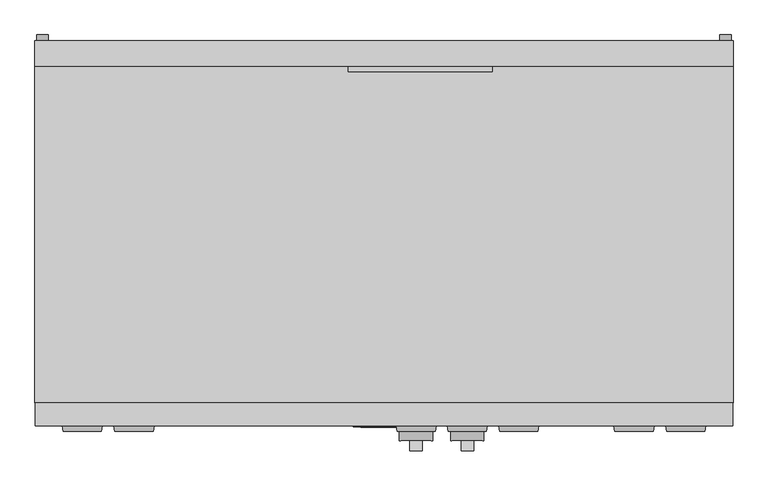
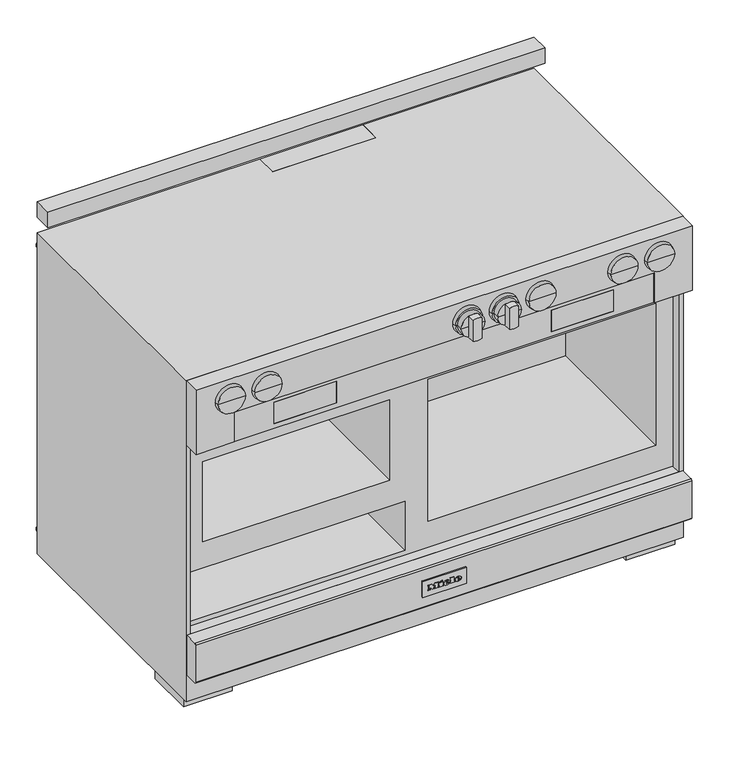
"""IFC4 building model written with IfcOpenShell, lengths in millimetres: proxy geometry, 11791700_USA_HR1956-3G_EDST-CLST : 25195681_USA_11791700_HR1956-3G_EDST-CLST."""

from ifc_helpers import new_model, si_unit, point, frame, frame_2d, origin, origin_with_axes, place, context, project, spatial, polyline, circle_curve, ellipse_curve, trimmed, segment, composite_curve, outline, extrude, faceted_brep, source, transform, mapped, element, save
from ifc_brep_helpers import plane_surface, cylinder_surface, revolved_surface, extruded_surface, advanced_brep


def specialty_equipment_65e86ba7(model_context):
    return source(origin(), model_context, "Body", "SolidModel", [
        advanced_brep(
        [(145.5, -683.0, 813.0), (174.5, -683.0, 813.0), (116.5, -683.0, 813.0), (116.5, -699.0, 813.0), (174.5, -699.0, 813.0), (145.5, -699.0, 813.0)],
        [
            (0, 1),
            (1, 2, circle_curve(frame((145.5, -683.0, 813.0), z_axis=(0.0, 1.0, 0.0), x_axis=(1.0, 0.0, 0.0)), 29.0)),
            (2, 0),
            (2, 1, circle_curve(frame((145.5, -683.0, 813.0), z_axis=(0.0, 1.0, 0.0), x_axis=(1.0, 0.0, 0.0)), 29.0)),
            (3, 4, circle_curve(frame((145.5, -699.0, 813.0), z_axis=(0.0, -1.0, 0.0), x_axis=(1.0, 0.0, 0.0)), 29.0)),
            (4, 5),
            (5, 3),
            (4, 3, circle_curve(frame((145.5, -699.0, 813.0), z_axis=(0.0, -1.0, 0.0), x_axis=(1.0, 0.0, 0.0)), 29.0)),
            (1, 4),
            (3, 2),
        ],
        [
            plane_surface(frame((145.5, -683.0, 813.0), z_axis=(0.0, 1.0, 0.0), x_axis=(1.0, 0.0, 0.0))),
            plane_surface(frame((145.5, -699.0, 813.0), z_axis=(0.0, -1.0, 0.0), x_axis=(1.0, 0.0, 0.0))),
            cylinder_surface(frame((145.5, 751.3738435, 813.0), z_axis=(0.0, 1.0, 0.0), x_axis=(1.0, 0.0, 0.0)), 29.0),
        ],
        [
            (0, [[1, 2, 3]]),
            (0, [[-3, 4, -1]]),
            (1, [[5, 6, 7]]),
            (1, [[8, -7, -6]]),
            (2, [[-2, 9, -5, 10]]),
            (2, [[-4, -10, -8, -9]]),
        ],
    ),
        advanced_brep(
        [(56.0, -683.0, 813.0), (85.0, -683.0, 813.0), (27.0, -683.0, 813.0), (27.0, -699.0, 813.0), (85.0, -699.0, 813.0), (56.0, -699.0, 813.0)],
        [
            (0, 1),
            (1, 2, circle_curve(frame((56.0, -683.0, 813.0), z_axis=(0.0, 1.0, 0.0), x_axis=(1.0, 0.0, 0.0)), 29.0)),
            (2, 0),
            (2, 1, circle_curve(frame((56.0, -683.0, 813.0), z_axis=(0.0, 1.0, 0.0), x_axis=(1.0, 0.0, 0.0)), 29.0)),
            (3, 4, circle_curve(frame((56.0, -699.0, 813.0), z_axis=(0.0, -1.0, 0.0), x_axis=(1.0, 0.0, 0.0)), 29.0)),
            (4, 5),
            (5, 3),
            (4, 3, circle_curve(frame((56.0, -699.0, 813.0), z_axis=(0.0, -1.0, 0.0), x_axis=(1.0, 0.0, 0.0)), 29.0)),
            (1, 4),
            (3, 2),
        ],
        [
            plane_surface(frame((56.0, -683.0, 813.0), z_axis=(0.0, 1.0, 0.0), x_axis=(1.0, 0.0, 0.0))),
            plane_surface(frame((56.0, -699.0, 813.0), z_axis=(0.0, -1.0, 0.0), x_axis=(1.0, 0.0, 0.0))),
            cylinder_surface(frame((56.0, 751.3738435, 813.0), z_axis=(0.0, 1.0, 0.0), x_axis=(1.0, 0.0, 0.0)), 29.0),
        ],
        [
            (0, [[1, 2, 3]]),
            (0, [[-3, 4, -1]]),
            (1, [[5, 6, 7]]),
            (1, [[8, -7, -6]]),
            (2, [[-2, 9, -5, 10]]),
            (2, [[-4, -10, -8, -9]]),
        ],
    ),
        extrude(outline(composite_curve([segment(polyline([(839.8328157, 45.0), (786.1671843, 45.0)]), True, "CONTINUOUS"), segment(trimmed(circle_curve(frame_2d((813.0, 56.0)), 29.0), [point((786.1671843, 45.0))], [point((786.1671843, 67.0))], False, "CARTESIAN"), True, "CONTINUOUS"), segment(polyline([(786.1671843, 67.0), (839.8328157, 67.0)]), True, "CONTINUOUS"), segment(trimmed(circle_curve(frame_2d((813.0, 56.0)), 29.0), [point((839.8328157, 67.0))], [point((839.8328157, 45.0))], False, "CARTESIAN"), True, "CONTINUOUS")], self_intersect=False)), frame((0.0, -717.0, 0.0), z_axis=(0.0, 1.0, 0.0), x_axis=(0.0, 0.0, 1.0)), (0.0, 0.0, 1.0), 18.0),
        extrude(outline(composite_curve([segment(polyline([(839.8328157, 134.5), (786.1671843, 134.5)]), True, "CONTINUOUS"), segment(trimmed(circle_curve(frame_2d((813.0, 145.5)), 29.0), [point((786.1671843, 134.5))], [point((786.1671843, 156.5))], False, "CARTESIAN"), True, "CONTINUOUS"), segment(polyline([(786.1671843, 156.5), (839.8328157, 156.5)]), True, "CONTINUOUS"), segment(trimmed(circle_curve(frame_2d((813.0, 145.5)), 29.0), [point((839.8328157, 156.5))], [point((839.8328157, 134.5))], False, "CARTESIAN"), True, "CONTINUOUS")], self_intersect=False)), frame((0.0, -717.0, 0.0), z_axis=(0.0, 1.0, 0.0), x_axis=(0.0, 0.0, 1.0)), (0.0, 0.0, 1.0), 18.0),
        advanced_brep(
        [(493.2632698, -683.0, 813.0), (559.7367302, -683.0, 813.0), (526.5, -683.0, 813.0), (491.5, -673.0, 813.0), (561.5, -673.0, 813.0), (526.5, -673.0, 813.0)],
        [
            (0, 1, circle_curve(frame((526.5, -683.0, 813.0), z_axis=(0.0, -1.0, 0.0), x_axis=(1.0, 0.0, 0.0)), 33.2367302)),
            (1, 2),
            (2, 0),
            (1, 0, circle_curve(frame((526.5, -683.0, 813.0), z_axis=(0.0, -1.0, 0.0), x_axis=(1.0, 0.0, 0.0)), 33.2367302)),
            (3, 4, circle_curve(frame((526.5, -673.0, 813.0), z_axis=(0.0, -1.0, 0.0), x_axis=(1.0, 0.0, 0.0)), 35.0)),
            (4, 1),
            (0, 3),
            (4, 3, circle_curve(frame((526.5, -673.0, 813.0), z_axis=(0.0, -1.0, 0.0), x_axis=(1.0, 0.0, 0.0)), 35.0)),
            (5, 4),
            (3, 5),
        ],
        [
            plane_surface(frame((526.5, -683.0, 813.0), z_axis=(0.0, -1.0, 0.0), x_axis=(1.0, 0.0, 0.0))),
            revolved_surface(polyline([(559.7367302, -683.0, 813.0), (561.5, -673.0, 813.0)]), (526.5, 751.3738435, 813.0), (0.0, 1.0, 0.0)),
            plane_surface(frame((526.5, -673.0, 813.0), z_axis=(0.0, 1.0, 0.0), x_axis=(1.0, 0.0, 0.0))),
        ],
        [
            (0, [[1, 2, 3]]),
            (0, [[4, -3, -2]]),
            (1, [[5, 6, -1, 7]]),
            (1, [[8, -7, -4, -6]]),
            (2, [[9, -5, 10]]),
            (2, [[-10, -8, -9]]),
        ],
    ),
        advanced_brep(
        [(403.2632698, -683.0, 813.0), (469.7367302, -683.0, 813.0), (436.5, -683.0, 813.0), (401.5, -673.0, 813.0), (471.5, -673.0, 813.0), (436.5, -673.0, 813.0)],
        [
            (0, 1, circle_curve(frame((436.5, -683.0, 813.0), z_axis=(0.0, -1.0, 0.0), x_axis=(1.0, 0.0, 0.0)), 33.2367302)),
            (1, 2),
            (2, 0),
            (1, 0, circle_curve(frame((436.5, -683.0, 813.0), z_axis=(0.0, -1.0, 0.0), x_axis=(1.0, 0.0, 0.0)), 33.2367302)),
            (3, 4, circle_curve(frame((436.5, -673.0, 813.0), z_axis=(0.0, -1.0, 0.0), x_axis=(1.0, 0.0, 0.0)), 35.0)),
            (4, 1),
            (0, 3),
            (4, 3, circle_curve(frame((436.5, -673.0, 813.0), z_axis=(0.0, -1.0, 0.0), x_axis=(1.0, 0.0, 0.0)), 35.0)),
            (5, 4),
            (3, 5),
        ],
        [
            plane_surface(frame((436.5, -683.0, 813.0), z_axis=(0.0, -1.0, 0.0), x_axis=(1.0, 0.0, 0.0))),
            revolved_surface(polyline([(469.7367302, -683.0, 813.0), (471.5, -673.0, 813.0)]), (436.5, 751.3738435, 813.0), (0.0, 1.0, 0.0)),
            plane_surface(frame((436.5, -673.0, 813.0), z_axis=(0.0, 1.0, 0.0), x_axis=(1.0, 0.0, 0.0))),
        ],
        [
            (0, [[1, 2, 3]]),
            (0, [[4, -3, -2]]),
            (1, [[5, 6, -1, 7]]),
            (1, [[8, -7, -4, -6]]),
            (2, [[9, -5, 10]]),
            (2, [[-10, -8, -9]]),
        ],
    ),
        advanced_brep(
        [(202.2632698, -683.0, 813.0), (268.7367302, -683.0, 813.0), (235.5, -683.0, 813.0), (200.5, -673.0, 813.0), (270.5, -673.0, 813.0), (235.5, -673.0, 813.0)],
        [
            (0, 1, circle_curve(frame((235.5, -683.0, 813.0), z_axis=(0.0, -1.0, 0.0), x_axis=(1.0, 0.0, 0.0)), 33.2367302)),
            (1, 2),
            (2, 0),
            (1, 0, circle_curve(frame((235.5, -683.0, 813.0), z_axis=(0.0, -1.0, 0.0), x_axis=(1.0, 0.0, 0.0)), 33.2367302)),
            (3, 4, circle_curve(frame((235.5, -673.0, 813.0), z_axis=(0.0, -1.0, 0.0), x_axis=(1.0, 0.0, 0.0)), 35.0)),
            (4, 1),
            (0, 3),
            (4, 3, circle_curve(frame((235.5, -673.0, 813.0), z_axis=(0.0, -1.0, 0.0), x_axis=(1.0, 0.0, 0.0)), 35.0)),
            (5, 4),
            (3, 5),
        ],
        [
            plane_surface(frame((235.5, -683.0, 813.0), z_axis=(0.0, -1.0, 0.0), x_axis=(1.0, 0.0, 0.0))),
            revolved_surface(polyline([(268.7367302, -683.0, 813.0), (270.5, -673.0, 813.0)]), (235.5, 751.3738435, 813.0), (0.0, 1.0, 0.0)),
            plane_surface(frame((235.5, -673.0, 813.0), z_axis=(0.0, 1.0, 0.0), x_axis=(1.0, 0.0, 0.0))),
        ],
        [
            (0, [[1, 2, 3]]),
            (0, [[4, -3, -2]]),
            (1, [[5, 6, -1, 7]]),
            (1, [[8, -7, -4, -6]]),
            (2, [[9, -5, 10]]),
            (2, [[-10, -8, -9]]),
        ],
    ),
        advanced_brep(
        [(-469.7367302, -683.0, 813.0), (-403.2632698, -683.0, 813.0), (-436.5, -683.0, 813.0), (-471.5, -673.0, 813.0), (-401.5, -673.0, 813.0), (-436.5, -673.0, 813.0)],
        [
            (0, 1, circle_curve(frame((-436.5, -683.0, 813.0), z_axis=(0.0, -1.0, 0.0), x_axis=(1.0, 0.0, 0.0)), 33.2367302)),
            (1, 2),
            (2, 0),
            (1, 0, circle_curve(frame((-436.5, -683.0, 813.0), z_axis=(0.0, -1.0, 0.0), x_axis=(1.0, 0.0, 0.0)), 33.2367302)),
            (3, 4, circle_curve(frame((-436.5, -673.0, 813.0), z_axis=(0.0, -1.0, 0.0), x_axis=(1.0, 0.0, 0.0)), 35.0)),
            (4, 1),
            (0, 3),
            (4, 3, circle_curve(frame((-436.5, -673.0, 813.0), z_axis=(0.0, -1.0, 0.0), x_axis=(1.0, 0.0, 0.0)), 35.0)),
            (5, 4),
            (3, 5),
        ],
        [
            plane_surface(frame((-436.5, -683.0, 813.0), z_axis=(0.0, -1.0, 0.0), x_axis=(1.0, 0.0, 0.0))),
            revolved_surface(polyline([(-403.2632698, -683.0, 813.0), (-401.5, -673.0, 813.0)]), (-436.5, 751.3738435, 813.0), (0.0, 1.0, 0.0)),
            plane_surface(frame((-436.5, -673.0, 813.0), z_axis=(0.0, 1.0, 0.0), x_axis=(1.0, 0.0, 0.0))),
        ],
        [
            (0, [[1, 2, 3]]),
            (0, [[4, -3, -2]]),
            (1, [[5, 6, -1, 7]]),
            (1, [[8, -7, -4, -6]]),
            (2, [[9, -5, 10]]),
            (2, [[-10, -8, -9]]),
        ],
    ),
        advanced_brep(
        [(-559.7367302, -683.0, 813.0), (-493.2632698, -683.0, 813.0), (-526.5, -683.0, 813.0), (-561.5, -673.0, 813.0), (-491.5, -673.0, 813.0), (-526.5, -673.0, 813.0)],
        [
            (0, 1, circle_curve(frame((-526.5, -683.0, 813.0), z_axis=(0.0, -1.0, 0.0), x_axis=(1.0, 0.0, 0.0)), 33.2367302)),
            (1, 2),
            (2, 0),
            (1, 0, circle_curve(frame((-526.5, -683.0, 813.0), z_axis=(0.0, -1.0, 0.0), x_axis=(1.0, 0.0, 0.0)), 33.2367302)),
            (3, 4, circle_curve(frame((-526.5, -673.0, 813.0), z_axis=(0.0, -1.0, 0.0), x_axis=(1.0, 0.0, 0.0)), 35.0)),
            (4, 1),
            (0, 3),
            (4, 3, circle_curve(frame((-526.5, -673.0, 813.0), z_axis=(0.0, -1.0, 0.0), x_axis=(1.0, 0.0, 0.0)), 35.0)),
            (5, 4),
            (3, 5),
        ],
        [
            plane_surface(frame((-526.5, -683.0, 813.0), z_axis=(0.0, -1.0, 0.0), x_axis=(1.0, 0.0, 0.0))),
            revolved_surface(polyline([(-493.2632698, -683.0, 813.0), (-491.5, -673.0, 813.0)]), (-526.5, 751.3738435, 813.0), (0.0, 1.0, 0.0)),
            plane_surface(frame((-526.5, -673.0, 813.0), z_axis=(0.0, 1.0, 0.0), x_axis=(1.0, 0.0, 0.0))),
        ],
        [
            (0, [[1, 2, 3]]),
            (0, [[4, -3, -2]]),
            (1, [[5, 6, -1, 7]]),
            (1, [[8, -7, -4, -6]]),
            (2, [[9, -5, 10]]),
            (2, [[-10, -8, -9]]),
        ],
    ),
        advanced_brep(
        [(112.2632698, -683.0, 813.0), (178.7367302, -683.0, 813.0), (145.5, -683.0, 813.0), (110.5, -673.0, 813.0), (180.5, -673.0, 813.0), (145.5, -673.0, 813.0)],
        [
            (0, 1, circle_curve(frame((145.5, -683.0, 813.0), z_axis=(0.0, -1.0, 0.0), x_axis=(1.0, 0.0, 0.0)), 33.2367302)),
            (1, 2),
            (2, 0),
            (1, 0, circle_curve(frame((145.5, -683.0, 813.0), z_axis=(0.0, -1.0, 0.0), x_axis=(1.0, 0.0, 0.0)), 33.2367302)),
            (3, 4, circle_curve(frame((145.5, -673.0, 813.0), z_axis=(0.0, -1.0, 0.0), x_axis=(1.0, 0.0, 0.0)), 35.0)),
            (4, 1),
            (0, 3),
            (4, 3, circle_curve(frame((145.5, -673.0, 813.0), z_axis=(0.0, -1.0, 0.0), x_axis=(1.0, 0.0, 0.0)), 35.0)),
            (5, 4),
            (3, 5),
        ],
        [
            plane_surface(frame((145.5, -683.0, 813.0), z_axis=(0.0, -1.0, 0.0), x_axis=(1.0, 0.0, 0.0))),
            revolved_surface(polyline([(178.7367302, -683.0, 813.0), (180.5, -673.0, 813.0)]), (145.5, 751.3738435, 813.0), (0.0, 1.0, 0.0)),
            plane_surface(frame((145.5, -673.0, 813.0), z_axis=(0.0, 1.0, 0.0), x_axis=(1.0, 0.0, 0.0))),
        ],
        [
            (0, [[1, 2, 3]]),
            (0, [[4, -3, -2]]),
            (1, [[5, 6, -1, 7]]),
            (1, [[8, -7, -4, -6]]),
            (2, [[9, -5, 10]]),
            (2, [[-10, -8, -9]]),
        ],
    ),
        advanced_brep(
        [(22.7632698, -683.0, 813.0), (89.2367302, -683.0, 813.0), (56.0, -683.0, 813.0), (21.0, -673.0, 813.0), (91.0, -673.0, 813.0), (56.0, -673.0, 813.0)],
        [
            (0, 1, circle_curve(frame((56.0, -683.0, 813.0), z_axis=(0.0, -1.0, 0.0), x_axis=(1.0, 0.0, 0.0)), 33.2367302)),
            (1, 2),
            (2, 0),
            (1, 0, circle_curve(frame((56.0, -683.0, 813.0), z_axis=(0.0, -1.0, 0.0), x_axis=(1.0, 0.0, 0.0)), 33.2367302)),
            (3, 4, circle_curve(frame((56.0, -673.0, 813.0), z_axis=(0.0, -1.0, 0.0), x_axis=(1.0, 0.0, 0.0)), 35.0)),
            (4, 1),
            (0, 3),
            (4, 3, circle_curve(frame((56.0, -673.0, 813.0), z_axis=(0.0, -1.0, 0.0), x_axis=(1.0, 0.0, 0.0)), 35.0)),
            (5, 4),
            (3, 5),
        ],
        [
            plane_surface(frame((56.0, -683.0, 813.0), z_axis=(0.0, -1.0, 0.0), x_axis=(1.0, 0.0, 0.0))),
            revolved_surface(polyline([(89.2367302, -683.0, 813.0), (91.0, -673.0, 813.0)]), (56.0, 751.3738435, 813.0), (0.0, 1.0, 0.0)),
            plane_surface(frame((56.0, -673.0, 813.0), z_axis=(0.0, 1.0, 0.0), x_axis=(1.0, 0.0, 0.0))),
        ],
        [
            (0, [[1, 2, 3]]),
            (0, [[4, -3, -2]]),
            (1, [[5, 6, -1, 7]]),
            (1, [[8, -7, -4, -6]]),
            (2, [[9, -5, 10]]),
            (2, [[-10, -8, -9]]),
        ],
    ),
        faceted_brep([(608.5, -673.0, 862.0), (-608.5, -673.0, 862.0), (-608.5, -673.0, 695.0), (-515.5, -673.0, 695.0), (-515.5, -673.0, 772.0), (515.5, -673.0, 772.0), (515.5, -673.0, 695.0), (608.5, -673.0, 695.0), (608.5, -633.0, 862.0), (608.5, -633.0, 695.0), (-608.5, -633.0, 695.0), (-608.5, -633.0, 862.0), (515.5, -666.7, 695.0), (-515.5, -666.7, 695.0), (515.5, -666.7, 772.0), (-515.5, -666.7, 772.0)], [[[0, 1, 2, 3, 4, 5, 6, 7]], [[8, 9, 10, 11]], [[0, 7, 9, 8]], [[10, 9, 7, 6, 12, 13, 3, 2]], [[2, 1, 11, 10]], [[1, 0, 8, 11]], [[14, 15, 13, 12]], [[14, 12, 6, 5]], [[13, 15, 4, 3]], [[15, 14, 5, 4]]]),
        extrude(outline(polyline([(772.0, 515.5), (772.0, -515.5), (695.0, -515.5), (695.0, 515.5), (772.0, 515.5)]), holes=[polyline([(763.0, -263.5), (707.0, -263.5), (707.0, -416.5), (763.0, -416.5), (763.0, -263.5)]), polyline([(763.0, 416.5), (707.0, 416.5), (707.0, 263.5), (763.0, 263.5), (763.0, 416.5)])]), frame((0.0, -671.7, 0.0), z_axis=(0.0, 1.0, 0.0), x_axis=(0.0, 0.0, 1.0)), (0.0, 0.0, 1.0), 5.0),
        extrude(outline(polyline([(-263.5, -671.7), (-416.5, -671.7), (-416.5, -670.7), (-263.5, -670.7), (-263.5, -671.7)])), frame((0.0, 0.0, 707.0), z_axis=(0.0, 0.0, 1.0), x_axis=(1.0, 0.0, 0.0)), (0.0, 0.0, 1.0), 56.0),
        extrude(outline(polyline([(416.5, -671.7), (263.5, -671.7), (263.5, -670.7), (416.5, -670.7), (416.5, -671.7)])), frame((0.0, 0.0, 707.0), z_axis=(0.0, 0.0, 1.0), x_axis=(1.0, 0.0, 0.0)), (0.0, 0.0, 1.0), 56.0),
        extrude(outline(polyline([(-482.5, -489.0), (-482.5, -609.0), (-602.5, -609.0), (-602.5, -489.0), (-482.5, -489.0)])), origin_with_axes(), (0.0, 0.0, 1.0), 30.0),
        extrude(outline(polyline([(602.5, -489.0), (602.5, -609.0), (482.5, -609.0), (482.5, -489.0), (602.5, -489.0)])), origin_with_axes(), (0.0, 0.0, 1.0), 30.0),
        extrude(outline(composite_curve([segment(trimmed(circle_curve(frame_2d((-152.0, 40.0)), 40.0), [point((-113.2701665, 30.0))], [point((-190.7298335, 30.0))], False, "CARTESIAN"), True, "CONTINUOUS"), segment(polyline([(-190.7298335, 30.0), (-113.2701665, 30.0)]), True, "CONTINUOUS")], self_intersect=False)), frame((434.5, 0.0, 0.0), z_axis=(1.0, 0.0, 0.0), x_axis=(0.0, 1.0, 0.0)), (0.0, 0.0, 1.0), 28.0),
        faceted_brep([(-609.5, 0.0, 862.0), (-609.5, -633.0, 862.0), (609.5, -633.0, 862.0), (609.5, 0.0, 862.0), (189.5, 0.0, 862.0), (189.5, -55.0, 862.0), (-63.5, -55.0, 862.0), (-63.5, 0.0, 862.0), (609.5, 0.0, 30.0), (609.5, -633.0, 30.0), (-609.5, -633.0, 30.0), (-609.5, 0.0, 30.0), (-598.5, 0.0, 30.0), (-598.5, -77.0, 30.0), (598.5, -77.0, 30.0), (598.5, 0.0, 30.0), (598.5, 0.0, 105.0), (189.5, 0.0, 105.0), (-63.5, 0.0, 105.0), (-459.5, 0.0, 105.0), (-459.5, 0.0, 784.0), (-547.5, 0.0, 784.0), (-547.5, 0.0, 105.0), (-598.5, 0.0, 105.0), (598.5, -633.0, 695.0), (598.5, -633.0, 203.0), (-598.5, -633.0, 203.0), (-598.5, -633.0, 695.0), (598.5, -608.0, 695.0), (-598.5, -608.0, 695.0), (-598.5, -608.0, 203.0), (598.5, -608.0, 203.0), (557.5, -608.0, 639.0), (557.5, -608.0, 271.0), (-2.5, -608.0, 271.0), (-2.5, -608.0, 639.0), (-58.5, -608.0, 342.0), (-58.5, -608.0, 215.0), (-592.5, -608.0, 215.0), (-592.5, -608.0, 342.0), (-96.5, -608.0, 618.0), (-96.5, -608.0, 410.0), (-554.5, -608.0, 410.0), (-554.5, -608.0, 618.0), (557.5, -224.0, 639.0), (-2.5, -224.0, 639.0), (-2.5, -224.0, 271.0), (557.5, -224.0, 271.0), (-96.5, -235.0, 618.0), (-554.5, -235.0, 618.0), (-554.5, -235.0, 410.0), (-96.5, -235.0, 410.0), (-58.5, -95.0, 342.0), (-592.5, -95.0, 342.0), (-592.5, -95.0, 215.0), (-58.5, -95.0, 215.0), (-598.5, -77.0, 105.0), (598.5, -77.0, 105.0), (-547.5, -55.0, 105.0), (-459.5, -55.0, 105.0), (-63.5, -55.0, 105.0), (189.5, -55.0, 105.0), (-547.5, -55.0, 784.0), (-459.5, -55.0, 784.0)], [[[0, 1, 2, 3, 4, 5, 6, 7]], [[8, 9, 10, 11, 12, 13, 14, 15]], [[3, 8, 15, 16, 17, 4]], [[11, 0, 7, 18, 19, 20, 21, 22, 23, 12]], [[1, 0, 11, 10]], [[2, 1, 10, 9], [24, 25, 26, 27]], [[3, 2, 9, 8]], [[28, 29, 30, 31], [32, 33, 34, 35], [36, 37, 38, 39], [40, 41, 42, 43]], [[28, 31, 25, 24]], [[31, 30, 26, 25]], [[30, 29, 27, 26]], [[29, 28, 24, 27]], [[44, 45, 46, 47]], [[44, 47, 33, 32]], [[47, 46, 34, 33]], [[46, 45, 35, 34]], [[45, 44, 32, 35]], [[48, 49, 50, 51]], [[51, 50, 42, 41]], [[50, 49, 43, 42]], [[49, 48, 40, 43]], [[52, 53, 54, 55]], [[52, 55, 37, 36]], [[55, 54, 38, 37]], [[54, 53, 39, 38]], [[53, 52, 36, 39]], [[56, 57, 14, 13]], [[57, 56, 23, 22, 58, 59, 19, 18, 60, 61, 17, 16]], [[57, 16, 15, 14]], [[23, 56, 13, 12]], [[62, 63, 59, 58]], [[5, 61, 60, 6]], [[6, 60, 18, 7]], [[63, 62, 21, 20]], [[63, 20, 19, 59]], [[21, 62, 58, 22]], [[61, 5, 4, 17]], [[48, 51, 41, 40]]]),
        extrude(outline(composite_curve([segment(trimmed(circle_curve(frame_2d((761.0, -19.5)), 7.5), [point((761.0, -12.0))], [point((761.0, -27.0))], False, "CARTESIAN"), True, "CONTINUOUS"), segment(trimmed(circle_curve(frame_2d((761.0, -19.5)), 7.5), [point((761.0, -27.0))], [point((761.0, -12.0))], False, "CARTESIAN"), True, "CONTINUOUS")], self_intersect=False)), frame((0.0, -55.0, 0.0), z_axis=(0.0, 1.0, 0.0), x_axis=(0.0, 0.0, 1.0)), (0.0, 0.0, 1.0), 30.0),
        extrude(outline(polyline([(756.0, -8.9829639), (766.0509015, -8.9829639), (766.0509015, -10.2409127), (761.1386151, -10.2409127), (766.0475587, -15.3904554), (766.0475587, -17.1455728), (761.9164775, -12.8179994), (756.0, -17.3019347), (756.0, -15.7701694), (761.0664133, -11.9304743), (759.4465471, -10.2392234), (756.0, -10.2392234), (756.0, -8.9829639)])), frame((0.0, -25.0, 0.0), z_axis=(0.0, 1.0, 0.0), x_axis=(0.0, 0.0, 1.0)), (0.0, 0.0, 1.0), 1.0),
        extrude(outline(polyline([(755.9900117, -20.0376107), (766.0405487, -17.3032463), (766.0405487, -18.6010309), (757.3952189, -20.6941056), (766.0411296, -23.1946617), (766.0411296, -25.0615338), (757.4117226, -27.5845612), (766.0419182, -29.665026), (766.0419182, -30.9626989), (755.9984871, -28.2244126), (755.9984871, -26.8735976), (764.8308623, -24.1286268), (755.9900117, -21.5716905), (755.9900117, -20.0376107)])), frame((0.0, -25.0, 0.0), z_axis=(0.0, 1.0, 0.0), x_axis=(0.0, 0.0, 1.0)), (0.0, 0.0, 1.0), 1.0),
        extrude(outline(composite_curve([segment(trimmed(circle_curve(frame_2d((-514.5, -32.0)), 7.5), [point((-522.0, -32.0))], [point((-507.0, -32.0))], False, "CARTESIAN"), True, "CONTINUOUS"), segment(trimmed(circle_curve(frame_2d((-514.5, -32.0)), 7.5), [point((-507.0, -32.0))], [point((-522.0, -32.0))], False, "CARTESIAN"), True, "CONTINUOUS")], self_intersect=False)), frame((0.0, 0.0, 754.0), z_axis=(0.0, 0.0, 1.0), x_axis=(1.0, 0.0, 0.0)), (0.0, 0.0, 1.0), 30.0),
        extrude(outline(composite_curve([segment(trimmed(circle_curve(frame_2d((417.5, -39.0)), 7.5), [point((417.5, -46.5))], [point((417.5, -31.5))], False, "CARTESIAN"), True, "CONTINUOUS"), segment(trimmed(circle_curve(frame_2d((417.5, -39.0)), 7.5), [point((417.5, -31.5))], [point((417.5, -46.5))], False, "CARTESIAN"), True, "CONTINUOUS")], self_intersect=False)), frame((0.0, 0.0, 75.0), z_axis=(0.0, 0.0, 1.0), x_axis=(1.0, 0.0, 0.0)), (0.0, 0.0, 1.0), 30.0),
        extrude(outline(polyline([(424.9261097, -43.2846028), (417.6553153, -43.2846028), (417.6553153, -42.0259878), (423.6324687, -42.0259878), (423.6324687, -39.0398896), (417.9699511, -39.0398896), (417.9699511, -37.7868997), (423.6324687, -37.7868997), (423.6324687, -34.484481), (417.5234692, -34.484481), (417.5234692, -33.223126), (424.9261097, -33.223126), (424.9261097, -43.2846028)])), frame((0.0, 0.0, 74.0), z_axis=(0.0, 0.0, 1.0), x_axis=(1.0, 0.0, 0.0)), (0.0, 0.0, 1.0), 1.0),
        extrude(outline(polyline([(415.5939455, -43.2781045), (409.4083542, -43.2781045), (409.4083542, -42.0259878), (414.4083542, -42.0259878), (414.4083542, -33.223126), (415.5939455, -33.223126), (415.5939455, -43.2781045)])), frame((0.0, 0.0, 74.0), z_axis=(0.0, 0.0, 1.0), x_axis=(1.0, 0.0, 0.0)), (0.0, 0.0, 1.0), 1.0),
        extrude(outline(composite_curve([segment(polyline([(-633.0, 203.0), (-633.0, 100.0), (-668.0, 100.0)]), True, "CONTINUOUS"), segment(trimmed(circle_curve(frame_2d((-668.0, 103.0)), 3.0), [point((-668.0, 100.0))], [point((-671.0, 103.0))], False, "CARTESIAN"), True, "CONTINUOUS"), segment(polyline([(-671.0, 103.0), (-671.0, 200.0)]), True, "CONTINUOUS"), segment(trimmed(circle_curve(frame_2d((-668.0, 200.0)), 3.0), [point((-671.0, 200.0))], [point((-668.0, 203.0))], False, "CARTESIAN"), True, "CONTINUOUS"), segment(polyline([(-668.0, 203.0), (-633.0, 203.0)]), True, "CONTINUOUS")], self_intersect=False)), frame((-608.5, 0.0, 0.0), z_axis=(1.0, 0.0, 0.0), x_axis=(0.0, 1.0, 0.0)), (0.0, 0.0, 1.0), 1217.0),
        extrude(outline(composite_curve([segment(polyline([(-511.5941465, -31.8216074), (-507.5193946, -31.8216074), (-507.5193946, -33.0727848), (-510.3300756, -33.0727848), (-510.3300756, -34.8953779), (-509.0547934, -35.5734575), (-507.3554891, -35.8730907)]), True, "CONTINUOUS"), segment(trimmed(circle_curve(frame_2d((-507.2763582, -32.1835188)), 3.6904203), [point((-507.3554891, -35.8730907))], [point((-503.5917956, -31.975672))], True, "CARTESIAN"), True, "CONTINUOUS"), segment(trimmed(circle_curve(frame_2d((-507.7742118, -32.2116028)), 4.1890654), [point((-503.5917956, -31.975672))], [point((-507.3924604, -28.0399683))], True, "CARTESIAN"), True, "CONTINUOUS"), segment(trimmed(circle_curve(frame_2d((-507.6434541, -30.7827322)), 2.7542243), [point((-507.3924604, -28.0399683))], [point((-509.7311401, -28.9862582))], True, "CARTESIAN"), True, "CONTINUOUS"), segment(polyline([(-509.7311401, -28.9862582), (-510.2913432, -30.1348449), (-511.4545959, -29.808521), (-510.7222817, -28.1459412)]), True, "CONTINUOUS"), segment(trimmed(circle_curve(frame_2d((-507.5056573, -31.3038983)), 4.5077007), [point((-510.7222817, -28.1459412))], [point((-507.3478593, -26.7989604))], False, "CARTESIAN"), True, "CONTINUOUS"), segment(trimmed(circle_curve(frame_2d((-507.5297107, -32.0029797)), 5.2071956), [point((-507.3478593, -26.7989604))], [point((-502.3225151, -32.0029797))], False, "CARTESIAN"), True, "CONTINUOUS"), segment(trimmed(circle_curve(frame_2d((-507.5187023, -31.9634409)), 5.1963376), [point((-502.3225151, -32.0029797))], [point((-507.5187023, -37.1597785))], False, "CARTESIAN"), True, "CONTINUOUS"), segment(polyline([(-507.5187023, -37.1597785), (-509.5821579, -36.7823822), (-511.5941465, -35.5734575), (-511.5941465, -31.8216074)]), True, "CONTINUOUS")], self_intersect=False)), frame((0.0, 0.0, 753.0), z_axis=(0.0, 0.0, 1.0), x_axis=(1.0, 0.0, 0.0)), (0.0, 0.0, 1.0), 1.0),
        extrude(outline(composite_curve([segment(polyline([(-521.9581842, -34.6489066), (-520.702206, -34.8031213), (-521.6593436, -36.5606642)]), True, "CONTINUOUS"), segment(trimmed(circle_curve(frame_2d((-523.8057471, -33.6354063)), 3.6282478), [point((-521.6593436, -36.5606642))], [point((-525.3962663, -36.8964538))], False, "CARTESIAN"), True, "CONTINUOUS"), segment(trimmed(circle_curve(frame_2d((-524.2731504, -34.593725)), 2.5620205), [point((-525.3962663, -36.8964538))], [point((-526.82893, -34.7724425))], False, "CARTESIAN"), True, "CONTINUOUS"), segment(trimmed(circle_curve(frame_2d((-525.117737, -34.6527843)), 1.7153715), [point((-526.82893, -34.7724425))], [point((-525.647816, -33.021369))], False, "CARTESIAN"), True, "CONTINUOUS"), segment(polyline([(-525.647816, -33.021369), (-523.8069947, -32.4232499), (-522.487673, -30.9770867)]), True, "CONTINUOUS"), segment(trimmed(circle_curve(frame_2d((-523.6408399, -33.351197)), 2.6393548), [point((-522.487673, -30.9770867))], [point((-524.7940069, -30.9770867))], True, "CARTESIAN"), True, "CONTINUOUS"), segment(polyline([(-524.7940069, -30.9770867), (-525.2553884, -31.6611129), (-526.5084996, -31.5072502), (-526.0756304, -30.3795875)]), True, "CONTINUOUS"), segment(trimmed(circle_curve(frame_2d((-523.4527143, -33.6576461)), 4.1982564), [point((-526.0756304, -30.3795875))], [point((-523.5505395, -29.4605295))], False, "CARTESIAN"), True, "CONTINUOUS"), segment(trimmed(circle_curve(frame_2d((-523.4805679, -32.4626064)), 3.0028922), [point((-523.5505395, -29.4605295))], [point((-521.0718203, -30.6694816))], False, "CARTESIAN"), True, "CONTINUOUS"), segment(trimmed(circle_curve(frame_2d((-522.9380028, -31.5301363)), 2.0550823), [point((-521.0718203, -30.6694816))], [point((-521.9341096, -33.323335))], False, "CARTESIAN"), True, "CONTINUOUS"), segment(polyline([(-521.9341096, -33.323335), (-523.8494535, -33.9828408), (-525.5597255, -34.9076387), (-525.1768706, -35.6156702)]), True, "CONTINUOUS"), segment(trimmed(circle_curve(frame_2d((-523.8695779, -32.6018954)), 3.2850956), [point((-525.1768706, -35.6156702))], [point((-522.5622852, -35.6156702))], True, "CARTESIAN"), True, "CONTINUOUS"), segment(polyline([(-522.5622852, -35.6156702), (-521.9581842, -34.6489066)]), True, "CONTINUOUS")], self_intersect=False)), frame((0.0, 0.0, 753.0), z_axis=(0.0, 0.0, 1.0), x_axis=(1.0, 0.0, 0.0)), (0.0, 0.0, 1.0), 1.0),
        extrude(outline(composite_curve([segment(polyline([(-518.5009008, -37.0), (-519.7635363, -37.0), (-519.5191787, -35.9415709), (-519.3778726, -31.1117735)]), True, "CONTINUOUS"), segment(trimmed(circle_curve(frame_2d((-517.887549, -31.1553762)), 1.4909613), [point((-519.3778726, -31.1117735))], [point((-518.1381402, -29.6856246))], False, "CARTESIAN"), True, "CONTINUOUS"), segment(trimmed(circle_curve(frame_2d((-516.6175682, -34.7832301)), 5.3195602), [point((-518.1381402, -29.6856246))], [point((-514.940667, -29.7348914))], False, "CARTESIAN"), True, "CONTINUOUS"), segment(polyline([(-514.940667, -29.7348914), (-513.8643767, -30.4338425), (-513.3177226, -31.6616478), (-514.5710839, -31.8155412), (-515.1628147, -30.9704619)]), True, "CONTINUOUS"), segment(trimmed(circle_curve(frame_2d((-516.389909, -33.6278559)), 2.9270297), [point((-515.1628147, -30.9704619))], [point((-517.835883, -31.0829271))], True, "CARTESIAN"), True, "CONTINUOUS"), segment(polyline([(-517.835883, -31.0829271), (-518.1819155, -32.289686), (-514.9250607, -32.9227545)]), True, "CONTINUOUS"), segment(trimmed(circle_curve(frame_2d((-515.3373847, -35.0439776)), 2.1609254), [point((-514.9250607, -32.9227545))], [point((-513.7872437, -36.5495212))], False, "CARTESIAN"), True, "CONTINUOUS"), segment(trimmed(circle_curve(frame_2d((-515.7230106, -33.6941434)), 3.4496922), [point((-513.7872437, -36.5495212))], [point((-516.9810512, -36.9062626))], False, "CARTESIAN"), True, "CONTINUOUS"), segment(polyline([(-516.9810512, -36.9062626), (-518.1943945, -36.0566705), (-518.5009008, -37.0)]), True, "CONTINUOUS")], self_intersect=False), holes=[composite_curve([segment(polyline([(-518.1808047, -33.7241112), (-517.9778117, -34.8753414), (-517.1808418, -35.5929363), (-515.8846505, -35.8921857)]), True, "CONTINUOUS"), segment(trimmed(circle_curve(frame_2d((-515.6641539, -34.9371101)), 0.980198), [point((-515.8846505, -35.8921857))], [point((-515.0826105, -34.148063))], True, "CARTESIAN"), True, "CONTINUOUS"), segment(polyline([(-515.0826105, -34.148063), (-516.183896, -33.9339948), (-518.1808047, -33.7241112)]), True, "CONTINUOUS")], self_intersect=False)]), frame((0.0, 0.0, 753.0), z_axis=(0.0, 0.0, 1.0), x_axis=(1.0, 0.0, 0.0)), (0.0, 0.0, 1.0), 1.0),
        extrude(outline(composite_curve([segment(trimmed(circle_curve(frame_2d((-152.0, 40.0)), 40.0), [point((-113.2701665, 30.0))], [point((-190.7298335, 30.0))], False, "CARTESIAN"), True, "CONTINUOUS"), segment(polyline([(-190.7298335, 30.0), (-113.2701665, 30.0)]), True, "CONTINUOUS")], self_intersect=False)), frame((-462.5, 0.0, 0.0), z_axis=(1.0, 0.0, 0.0), x_axis=(0.0, 1.0, 0.0)), (0.0, 0.0, 1.0), 28.0),
        extrude(outline(polyline([(-63.5, 0.0), (189.5, 0.0), (189.5, -55.0), (-63.5, -55.0), (-63.5, 0.0)])), frame((0.0, 0.0, 778.0), z_axis=(0.0, 0.0, 1.0), x_axis=(1.0, 0.0, 0.0)), (0.0, 0.0, 1.0), 84.0),
        extrude(outline(composite_curve([segment(trimmed(circle_curve(frame_2d((822.0, 596.5)), 10.0), [point((822.0, 606.5))], [point((822.0, 586.5))], False, "CARTESIAN"), True, "CONTINUOUS"), segment(trimmed(circle_curve(frame_2d((822.0, 596.5)), 10.0), [point((822.0, 586.5))], [point((822.0, 606.5))], False, "CARTESIAN"), True, "CONTINUOUS")], self_intersect=False)), frame((0.0, 0.0, 0.0), z_axis=(0.0, 1.0, 0.0), x_axis=(0.0, 0.0, 1.0)), (0.0, 0.0, 1.0), 10.0),
        extrude(outline(composite_curve([segment(trimmed(circle_curve(frame_2d((87.0, 596.5)), 10.0), [point((87.0, 606.5))], [point((87.0, 586.5))], False, "CARTESIAN"), True, "CONTINUOUS"), segment(trimmed(circle_curve(frame_2d((87.0, 596.5)), 10.0), [point((87.0, 586.5))], [point((87.0, 606.5))], False, "CARTESIAN"), True, "CONTINUOUS")], self_intersect=False)), frame((0.0, 0.0, 0.0), z_axis=(0.0, 1.0, 0.0), x_axis=(0.0, 0.0, 1.0)), (0.0, 0.0, 1.0), 10.0),
        extrude(outline(composite_curve([segment(trimmed(circle_curve(frame_2d((822.0, -596.5)), 10.0), [point((822.0, -586.5))], [point((822.0, -606.5))], False, "CARTESIAN"), True, "CONTINUOUS"), segment(trimmed(circle_curve(frame_2d((822.0, -596.5)), 10.0), [point((822.0, -606.5))], [point((822.0, -586.5))], False, "CARTESIAN"), True, "CONTINUOUS")], self_intersect=False)), frame((0.0, 0.0, 0.0), z_axis=(0.0, 1.0, 0.0), x_axis=(0.0, 0.0, 1.0)), (0.0, 0.0, 1.0), 10.0),
        extrude(outline(composite_curve([segment(trimmed(circle_curve(frame_2d((87.0, -596.5)), 10.0), [point((87.0, -586.5))], [point((87.0, -606.5))], False, "CARTESIAN"), True, "CONTINUOUS"), segment(trimmed(circle_curve(frame_2d((87.0, -596.5)), 10.0), [point((87.0, -606.5))], [point((87.0, -586.5))], False, "CARTESIAN"), True, "CONTINUOUS")], self_intersect=False)), frame((0.0, 0.0, 0.0), z_axis=(0.0, 1.0, 0.0), x_axis=(0.0, 0.0, 1.0)), (0.0, 0.0, 1.0), 10.0),
        advanced_brep(
        [(32.17, -676.0, 148.1995), (32.17, -676.0, 149.563), (41.2015, -676.0, 149.563), (25.4875, -676.0, 149.563), (29.2, -676.0, 145.0), (40.972, -676.0, 148.1995), (36.895, -676.0, 148.1995), (33.682, -676.0, 146.6875), (32.17, -676.0, 151.291), (32.17, -676.0, 152.7625), (34.4785, -676.0, 152.7625), (34.4785, -676.0, 151.291), (32.17, -675.0, 148.1995), (33.682, -675.0, 146.6875), (36.895, -675.0, 148.1995), (40.972, -675.0, 148.1995), (29.2, -675.0, 145.0), (25.4875, -675.0, 149.563), (41.2015, -675.0, 149.563), (32.17, -675.0, 149.563), (32.17, -675.0, 151.291), (34.4785, -675.0, 151.291), (34.4785, -675.0, 152.7625), (32.17, -675.0, 152.7625)],
        [
            (0, 1),
            (1, 2),
            (2, 3, ellipse_curve(frame((33.3445, -676.0, 149.563), z_axis=(0.0, -1.0, 0.0), x_axis=(-1.0, 0.0, 0.0)), 7.857, 6.4935)),
            (3, 4, circle_curve(frame((30.7120736, -676.0, 150.022), z_axis=(0.0, -1.0, 0.0), x_axis=(0.0, 0.0, -1.0)), 5.2446974)),
            (4, 5, circle_curve(frame((33.1872142, -676.0, 153.586), z_axis=(0.0, -1.0, 0.0), x_axis=(0.0, 0.0, -1.0)), 9.46664)),
            (5, 6),
            (6, 7, circle_curve(frame((34.3419118, -676.0, 149.455), z_axis=(0.0, 1.0, 0.0), x_axis=(0.0, 0.0, -1.0)), 2.8450905)),
            (7, 0, circle_curve(frame((33.682, -676.0, 148.1995), z_axis=(0.0, 1.0, 0.0), x_axis=(0.0, 0.0, -1.0)), 1.512)),
            (8, 9),
            (9, 10, circle_curve(frame((33.32425, -676.0, 152.7625), z_axis=(0.0, 1.0, 0.0), x_axis=(0.0, 0.0, -1.0)), 1.15425)),
            (10, 11),
            (11, 8),
            (12, 13, circle_curve(frame((33.682, -675.0, 148.1995), z_axis=(0.0, -1.0, 0.0), x_axis=(0.0, 0.0, -1.0)), 1.512)),
            (13, 14, circle_curve(frame((34.3419118, -675.0, 149.455), z_axis=(0.0, -1.0, 0.0), x_axis=(0.0, 0.0, -1.0)), 2.8450905)),
            (14, 15),
            (15, 16, circle_curve(frame((33.1872142, -675.0, 153.586), z_axis=(0.0, 1.0, 0.0), x_axis=(0.0, 0.0, -1.0)), 9.46664)),
            (16, 17, circle_curve(frame((30.7120736, -675.0, 150.022), z_axis=(0.0, 1.0, 0.0), x_axis=(0.0, 0.0, -1.0)), 5.2446974)),
            (17, 18, ellipse_curve(frame((33.3445, -675.0, 149.563), z_axis=(0.0, 1.0, 0.0), x_axis=(-1.0, 0.0, 0.0)), 7.857, 6.4935)),
            (18, 19),
            (19, 12),
            (20, 21),
            (21, 22),
            (22, 23, circle_curve(frame((33.32425, -675.0, 152.7625), z_axis=(0.0, -1.0, 0.0), x_axis=(0.0, 0.0, -1.0)), 1.15425)),
            (23, 20),
            (0, 12),
            (19, 1),
            (18, 2),
            (5, 15),
            (14, 6),
            (17, 3),
            (13, 7),
            (16, 4),
            (8, 20),
            (23, 9),
            (22, 10),
            (21, 11),
        ],
        [
            plane_surface(frame((32.17, -676.0, 149.563), z_axis=(0.0, -1.0, 0.0), x_axis=(0.0, 0.0, 1.0))),
            plane_surface(frame((32.17, -675.0, 149.563), z_axis=(0.0, 1.0, 0.0), x_axis=(0.0, 0.0, -1.0))),
            plane_surface(frame((32.17, -676.0, 148.1995), z_axis=(1.0, 0.0, 0.0), x_axis=(0.0, 1.0, 0.0))),
            plane_surface(frame((32.17, -676.0, 149.563), z_axis=(0.0, 0.0, -1.0), x_axis=(0.0, 1.0, 0.0))),
            plane_surface(frame((40.972, -676.0, 148.1995), z_axis=(0.0, 0.0, 1.0), x_axis=(0.0, 1.0, 0.0))),
            extruded_surface(trimmed(ellipse_curve(frame((33.3445, -674.0, 149.563), z_axis=(0.0, -1.0, 0.0), x_axis=(-1.0, 0.0, 0.0)), 7.857, 6.4935), [point((41.2015, -674.0, 149.563))], [point((25.4875, -674.0, 149.563))], True, "CARTESIAN"), (0.0, -1.0, 0.0), 1.0),
            revolved_surface(polyline([(34.3419118, -675.0, 146.60990950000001), (34.3419118, -676.0, 146.60990950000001)]), (34.3419118, -675.0, 149.455), (0.0, 1.0, 0.0)),
            revolved_surface(polyline([(33.682, -675.0, 146.6875), (33.682, -676.0, 146.6875)]), (33.682, -675.0, 148.1995), (0.0, 1.0, 0.0)),
            cylinder_surface(frame((30.7120736, -675.0, 150.022), z_axis=(0.0, -1.0, 0.0), x_axis=(0.0, 0.0, -1.0)), 5.2446974),
            cylinder_surface(frame((33.1872142, -675.0, 153.586), z_axis=(0.0, -1.0, 0.0), x_axis=(0.0, 0.0, -1.0)), 9.46664),
            plane_surface(frame((32.17, -676.0, 151.291), z_axis=(1.0, 0.0, 0.0), x_axis=(0.0, 1.0, 0.0))),
            revolved_surface(polyline([(33.32425, -675.0, 151.60825), (33.32425, -676.0, 151.60825)]), (33.32425, -675.0, 152.7625), (0.0, 1.0, 0.0)),
            plane_surface(frame((34.4785, -676.0, 152.7625), z_axis=(-1.0, 0.0, 0.0), x_axis=(0.0, 1.0, 0.0))),
            plane_surface(frame((34.4785, -676.0, 151.291), z_axis=(0.0, 0.0, 1.0), x_axis=(0.0, 1.0, 0.0))),
        ],
        [
            (0, [[1, 2, 3, 4, 5, 6, 7, 8], [9, 10, 11, 12]]),
            (1, [[13, 14, 15, 16, 17, 18, 19, 20], [21, 22, 23, 24]]),
            (2, [[-1, 25, -20, 26]]),
            (3, [[-2, -26, -19, 27]]),
            (4, [[-6, 28, -15, 29]]),
            (5, [[-3, -27, -18, 30]]),
            (6, [[-7, -29, -14, 31]]),
            (7, [[-8, -31, -13, -25]]),
            (8, [[-4, -30, -17, 32]]),
            (9, [[-5, -32, -16, -28]]),
            (10, [[-9, 33, -24, 34]]),
            (11, [[-10, -34, -23, 35]]),
            (12, [[-11, -35, -22, 36]]),
            (13, [[-12, -36, -21, -33]]),
        ],
    ),
        advanced_brep(
        [(3.9955, -676.0, 148.1995), (3.9955, -676.0, 149.563), (13.027, -676.0, 149.563), (-2.687, -676.0, 149.563), (1.0255, -676.0, 145.0), (12.7975, -676.0, 148.1995), (8.7205, -676.0, 148.1995), (5.5075, -676.0, 146.6875), (3.9955, -676.0, 151.291), (3.9955, -676.0, 152.7625), (6.304, -676.0, 152.7625), (6.304, -676.0, 151.291), (3.9955, -675.0, 148.1995), (5.5075, -675.0, 146.6875), (8.7205, -675.0, 148.1995), (12.7975, -675.0, 148.1995), (1.0255, -675.0, 145.0), (-2.687, -675.0, 149.563), (13.027, -675.0, 149.563), (3.9955, -675.0, 149.563), (3.9955, -675.0, 151.291), (6.304, -675.0, 151.291), (6.304, -675.0, 152.7625), (3.9955, -675.0, 152.7625)],
        [
            (0, 1),
            (1, 2),
            (2, 3, ellipse_curve(frame((5.17, -676.0, 149.563), z_axis=(0.0, -1.0, 0.0), x_axis=(-1.0, 0.0, 0.0)), 7.857, 6.4935)),
            (3, 4, circle_curve(frame((2.5375736, -676.0, 150.022), z_axis=(0.0, -1.0, 0.0), x_axis=(0.0, 0.0, -1.0)), 5.2446974)),
            (4, 5, circle_curve(frame((5.0127142, -676.0, 153.586), z_axis=(0.0, -1.0, 0.0), x_axis=(0.0, 0.0, -1.0)), 9.46664)),
            (5, 6),
            (6, 7, circle_curve(frame((6.1674118, -676.0, 149.455), z_axis=(0.0, 1.0, 0.0), x_axis=(0.0, 0.0, -1.0)), 2.8450905)),
            (7, 0, circle_curve(frame((5.5075, -676.0, 148.1995), z_axis=(0.0, 1.0, 0.0), x_axis=(0.0, 0.0, -1.0)), 1.512)),
            (8, 9),
            (9, 10, circle_curve(frame((5.14975, -676.0, 152.7625), z_axis=(0.0, 1.0, 0.0), x_axis=(0.0, 0.0, -1.0)), 1.15425)),
            (10, 11),
            (11, 8),
            (12, 13, circle_curve(frame((5.5075, -675.0, 148.1995), z_axis=(0.0, -1.0, 0.0), x_axis=(0.0, 0.0, -1.0)), 1.512)),
            (13, 14, circle_curve(frame((6.1674118, -675.0, 149.455), z_axis=(0.0, -1.0, 0.0), x_axis=(0.0, 0.0, -1.0)), 2.8450905)),
            (14, 15),
            (15, 16, circle_curve(frame((5.0127142, -675.0, 153.586), z_axis=(0.0, 1.0, 0.0), x_axis=(0.0, 0.0, -1.0)), 9.46664)),
            (16, 17, circle_curve(frame((2.5375736, -675.0, 150.022), z_axis=(0.0, 1.0, 0.0), x_axis=(0.0, 0.0, -1.0)), 5.2446974)),
            (17, 18, ellipse_curve(frame((5.17, -675.0, 149.563), z_axis=(0.0, 1.0, 0.0), x_axis=(-1.0, 0.0, 0.0)), 7.857, 6.4935)),
            (18, 19),
            (19, 12),
            (20, 21),
            (21, 22),
            (22, 23, circle_curve(frame((5.14975, -675.0, 152.7625), z_axis=(0.0, -1.0, 0.0), x_axis=(0.0, 0.0, -1.0)), 1.15425)),
            (23, 20),
            (0, 12),
            (19, 1),
            (18, 2),
            (5, 15),
            (14, 6),
            (17, 3),
            (13, 7),
            (16, 4),
            (8, 20),
            (23, 9),
            (22, 10),
            (21, 11),
        ],
        [
            plane_surface(frame((3.9955, -676.0, 149.563), z_axis=(0.0, -1.0, 0.0), x_axis=(0.0, 0.0, 1.0))),
            plane_surface(frame((3.9955, -675.0, 149.563), z_axis=(0.0, 1.0, 0.0), x_axis=(0.0, 0.0, -1.0))),
            plane_surface(frame((3.9955, -676.0, 148.1995), z_axis=(1.0, 0.0, 0.0), x_axis=(0.0, 1.0, 0.0))),
            plane_surface(frame((3.9955, -676.0, 149.563), z_axis=(0.0, 0.0, -1.0), x_axis=(0.0, 1.0, 0.0))),
            plane_surface(frame((12.7975, -676.0, 148.1995), z_axis=(0.0, 0.0, 1.0), x_axis=(0.0, 1.0, 0.0))),
            extruded_surface(trimmed(ellipse_curve(frame((5.17, -674.0, 149.563), z_axis=(0.0, -1.0, 0.0), x_axis=(-1.0, 0.0, 0.0)), 7.857, 6.4935), [point((13.027, -674.0, 149.563))], [point((-2.687, -674.0, 149.563))], True, "CARTESIAN"), (0.0, -1.0, 0.0), 1.0),
            revolved_surface(polyline([(6.1674118, -675.0, 146.60990950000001), (6.1674118, -676.0, 146.60990950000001)]), (6.1674118, -675.0, 149.455), (0.0, 1.0, 0.0)),
            revolved_surface(polyline([(5.5075, -675.0, 146.6875), (5.5075, -676.0, 146.6875)]), (5.5075, -675.0, 148.1995), (0.0, 1.0, 0.0)),
            cylinder_surface(frame((2.5375736, -675.0, 150.022), z_axis=(0.0, -1.0, 0.0), x_axis=(0.0, 0.0, -1.0)), 5.2446974),
            cylinder_surface(frame((5.0127142, -675.0, 153.586), z_axis=(0.0, -1.0, 0.0), x_axis=(0.0, 0.0, -1.0)), 9.46664),
            plane_surface(frame((3.9955, -676.0, 151.291), z_axis=(1.0, 0.0, 0.0), x_axis=(0.0, 1.0, 0.0))),
            revolved_surface(polyline([(5.14975, -675.0, 151.60825), (5.14975, -676.0, 151.60825)]), (5.14975, -675.0, 152.7625), (0.0, 1.0, 0.0)),
            plane_surface(frame((6.304, -676.0, 152.7625), z_axis=(-1.0, 0.0, 0.0), x_axis=(0.0, 1.0, 0.0))),
            plane_surface(frame((6.304, -676.0, 151.291), z_axis=(0.0, 0.0, 1.0), x_axis=(0.0, 1.0, 0.0))),
        ],
        [
            (0, [[1, 2, 3, 4, 5, 6, 7, 8], [9, 10, 11, 12]]),
            (1, [[13, 14, 15, 16, 17, 18, 19, 20], [21, 22, 23, 24]]),
            (2, [[-1, 25, -20, 26]]),
            (3, [[-2, -26, -19, 27]]),
            (4, [[-6, 28, -15, 29]]),
            (5, [[-3, -27, -18, 30]]),
            (6, [[-7, -29, -14, 31]]),
            (7, [[-8, -31, -13, -25]]),
            (8, [[-4, -30, -17, 32]]),
            (9, [[-5, -32, -16, -28]]),
            (10, [[-9, 33, -24, 34]]),
            (11, [[-10, -34, -23, 35]]),
            (12, [[-11, -35, -22, 36]]),
            (13, [[-12, -36, -21, -33]]),
        ],
    ),
        extrude(outline(polyline([(157.7035, -10.76), (155.5165, -9.734), (157.6495, -5.1575), (159.8365, -6.17), (157.7035, -10.76)])), frame((0.0, -676.0, 0.0), z_axis=(0.0, 1.0, 0.0), x_axis=(0.0, 0.0, 1.0)), (0.0, 0.0, 1.0), 1.0),
        extrude(outline(polyline([(155.2195, -14.0945), (152.803, -14.0945), (152.803, -12.488), (147.268, -12.488), (147.268, -14.0945), (145.0, -14.0945), (145.0, -3.443), (147.268, -3.443), (147.268, -5.009), (155.2195, -5.009), (155.2195, -14.0945)])), frame((0.0, -676.0, 0.0), z_axis=(0.0, 1.0, 0.0), x_axis=(0.0, 0.0, 1.0)), (0.0, 0.0, 1.0), 1.0),
        extrude(outline(polyline([(156.2995, 13.783), (156.2995, 15.403), (147.268, 15.403), (147.268, 13.783), (145.0, 13.783), (145.0, 24.7315), (147.268, 24.7315), (147.268, 23.071), (158.5, 23.071), (158.5, 13.783), (156.2995, 13.783)])), frame((0.0, -676.0, 0.0), z_axis=(0.0, 1.0, 0.0), x_axis=(0.0, 0.0, 1.0)), (0.0, 0.0, 1.0), 1.0),
        extrude(outline(polyline([(156.2995, -41.0), (156.2995, -39.3665), (147.268, -39.3665), (147.268, -41.0), (145.0, -41.0), (145.0, -35.06), (147.268, -35.06), (147.268, -36.68), (152.9756247, -36.68), (145.0, -30.6455), (153.2527223, -24.584), (147.268, -24.584), (147.268, -26.2445), (145.0, -26.2445), (145.0, -15.4715), (147.268, -15.4715), (147.268, -17.186), (156.2995, -17.186), (156.2995, -15.4715), (158.5, -15.4715), (158.5, -23.693), (153.4375, -27.635), (158.5, -31.5905), (158.5, -41.0), (156.2995, -41.0)])), frame((0.0, -676.0, 0.0), z_axis=(0.0, 1.0, 0.0), x_axis=(0.0, 0.0, 1.0)), (0.0, 0.0, 1.0), 1.0),
        extrude(outline(polyline([(609.5, 0.0), (609.5, -45.0), (-609.5, -45.0), (-609.5, 0.0), (609.5, 0.0)])), frame((0.0, 0.0, 902.0), z_axis=(0.0, 0.0, 1.0), x_axis=(1.0, 0.0, 0.0)), (0.0, 0.0, 1.0), 40.0),
        extrude(outline(composite_curve([segment(polyline([(-671.0, 131.0), (-674.5, 131.0)]), True, "CONTINUOUS"), segment(trimmed(circle_curve(frame_2d((-465.0137328, 151.5)), 210.4869263), [point((-674.5, 131.0))], [point((-674.5, 172.0))], False, "CARTESIAN"), True, "CONTINUOUS"), segment(polyline([(-674.5, 172.0), (-671.0, 172.0), (-671.0, 131.0)]), True, "CONTINUOUS")], self_intersect=False)), frame((-53.5, 0.0, 0.0), z_axis=(1.0, 0.0, 0.0), x_axis=(0.0, 1.0, 0.0)), (0.0, 0.0, 1.0), 107.0),
    ])


if __name__ == "__main__":
    model = new_model("IFC4")
    model_context = context("Model", 3, world=origin())
    ifc_project = project(units=[si_unit("LENGTHUNIT", "METRE", prefix="MILLI")], contexts=[model_context])
    site = spatial("IfcSite", under=ifc_project)
    building = spatial("IfcBuilding", under=site)
    placement = place(None, origin())
    specialty_equipment_shape = specialty_equipment_65e86ba7(model_context)
    element("IfcBuildingElementProxy", 1, Name="11791700_USA_HR1956-3G_EDST-CLST : 25195681_USA_11791700_HR1956-3G_EDST-CLST", ObjectType="11791700_USA_HR1956-3G_EDST-CLST : 25195681_USA_11791700_HR1956-3G_EDST-CLST", at=placement, inside=building, context=model_context, shape_type="MappedRepresentation", body=[
        mapped(specialty_equipment_shape, transform((0.0, 0.0, 0.0), x_axis=(1.0, 0.0, 0.0), y_axis=(0.0, 1.0, 0.0), z_axis=(0.0, 0.0, 1.0))),
    ])
    save(model, "model.ifc")
